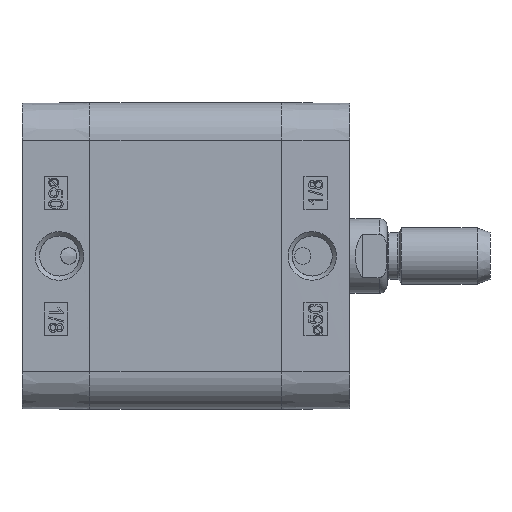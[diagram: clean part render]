
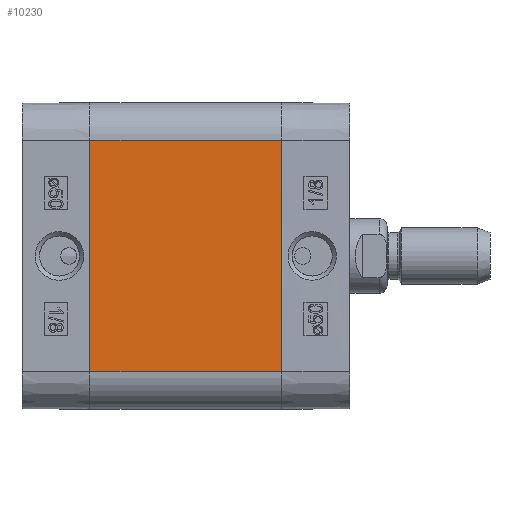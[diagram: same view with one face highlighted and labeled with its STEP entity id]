
A CAD part, left-side view. The second image highlights one B-rep face of the part: STEP entity #10230.
In plain terms, the highlighted planar face has unit normal (-1, 0, 0).
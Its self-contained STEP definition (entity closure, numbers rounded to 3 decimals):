
#5232=CARTESIAN_POINT('',(-32.75,-41.0,24.75));
#5233=VERTEX_POINT('',#5232);
#5240=CARTESIAN_POINT('',(-32.75,-41.0,-24.75));
#5241=VERTEX_POINT('',#5240);
#5242=CARTESIAN_POINT('',(-32.75,-41.0,-24.75));
#5243=DIRECTION('',(0.0,0.0,1.0));
#5244=VECTOR('',#5243,49.5);
#5245=LINE('',#5242,#5244);
#5246=EDGE_CURVE('',#5241,#5233,#5245,.T.);
#10188=CARTESIAN_POINT('',(-32.75,0.0,-24.75));
#10189=VERTEX_POINT('',#10188);
#10190=CARTESIAN_POINT('',(-32.75,0.0,-24.75));
#10191=DIRECTION('',(0.0,-1.0,0.0));
#10192=VECTOR('',#10191,41.0);
#10193=LINE('',#10190,#10192);
#10194=EDGE_CURVE('',#10189,#5241,#10193,.T.);
#10207=CARTESIAN_POINT('',(-32.75,0.0,-24.75));
#10208=DIRECTION('',(-1.0,0.0,0.0));
#10209=DIRECTION('',(0.0,0.0,1.0));
#10210=AXIS2_PLACEMENT_3D('',#10207,#10208,#10209);
#10211=PLANE('',#10210);
#10212=ORIENTED_EDGE('',*,*,#5246,.T.);
#10213=CARTESIAN_POINT('',(-32.75,0.0,24.75));
#10214=VERTEX_POINT('',#10213);
#10215=CARTESIAN_POINT('',(-32.75,0.0,24.75));
#10216=DIRECTION('',(0.0,-1.0,0.0));
#10217=VECTOR('',#10216,41.0);
#10218=LINE('',#10215,#10217);
#10219=EDGE_CURVE('',#10214,#5233,#10218,.T.);
#10220=ORIENTED_EDGE('',*,*,#10219,.F.);
#10221=CARTESIAN_POINT('',(-32.75,0.0,-24.75));
#10222=DIRECTION('',(0.0,0.0,1.0));
#10223=VECTOR('',#10222,49.5);
#10224=LINE('',#10221,#10223);
#10225=EDGE_CURVE('',#10189,#10214,#10224,.T.);
#10226=ORIENTED_EDGE('',*,*,#10225,.F.);
#10227=ORIENTED_EDGE('',*,*,#10194,.T.);
#10228=EDGE_LOOP('',(#10212,#10220,#10226,#10227));
#10229=FACE_OUTER_BOUND('',#10228,.T.);
#10230=ADVANCED_FACE('',(#10229),#10211,.T.);
